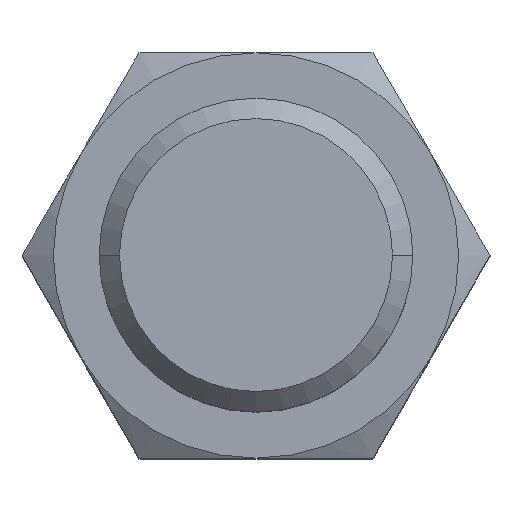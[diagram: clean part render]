
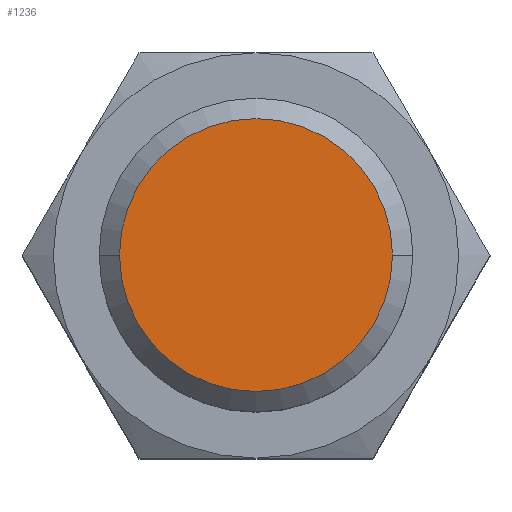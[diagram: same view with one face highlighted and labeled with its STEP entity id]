
A CAD part, top view. The second image highlights one B-rep face of the part: STEP entity #1236.
In plain terms, the highlighted planar face has unit normal (0, 0, 1).
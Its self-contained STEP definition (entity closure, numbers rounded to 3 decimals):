
#28 = AXIS2_PLACEMENT_3D ( 'NONE', #1306, #219, #121 ) ;
#59 = VERTEX_POINT ( 'NONE', #1040 ) ;
#121 = DIRECTION ( 'NONE',  ( 1., 0., 0. ) ) ;
#180 = ORIENTED_EDGE ( 'NONE', *, *, #537, .F. ) ;
#219 = DIRECTION ( 'NONE',  ( 0., 0., -1. ) ) ;
#235 = CIRCLE ( 'NONE', #850, 5.725 ) ;
#380 = ORIENTED_EDGE ( 'NONE', *, *, #898, .F. ) ;
#407 = DIRECTION ( 'NONE',  ( 0., 0., -1. ) ) ;
#499 = VERTEX_POINT ( 'NONE', #570 ) ;
#537 = EDGE_CURVE ( 'NONE', #59, #499, #1183, .T. ) ;
#570 = CARTESIAN_POINT ( 'NONE',  ( 5.725, 0., 36. ) ) ;
#606 = FACE_OUTER_BOUND ( 'NONE', #1174, .T. ) ;
#807 = CARTESIAN_POINT ( 'NONE',  ( 2.862, 0., 36. ) ) ;
#850 = AXIS2_PLACEMENT_3D ( 'NONE', #882, #407, #1262 ) ;
#882 = CARTESIAN_POINT ( 'NONE',  ( 0., 0., 36. ) ) ;
#898 = EDGE_CURVE ( 'NONE', #499, #59, #235, .T. ) ;
#1040 = CARTESIAN_POINT ( 'NONE',  ( -5.725, 0., 36. ) ) ;
#1163 = DIRECTION ( 'NONE',  ( 0., 0., 1. ) ) ;
#1174 = EDGE_LOOP ( 'NONE', ( #380, #180 ) ) ;
#1183 = CIRCLE ( 'NONE', #28, 5.725 ) ;
#1236 = ADVANCED_FACE ( 'NONE', ( #606 ), #1430, .T. ) ;
#1262 = DIRECTION ( 'NONE',  ( 1., 0., 0. ) ) ;
#1306 = CARTESIAN_POINT ( 'NONE',  ( 0., 0., 36. ) ) ;
#1410 = AXIS2_PLACEMENT_3D ( 'NONE', #807, #1163, #1570 ) ;
#1430 = PLANE ( 'NONE',  #1410 ) ;
#1570 = DIRECTION ( 'NONE',  ( 1., 0., 0. ) ) ;
